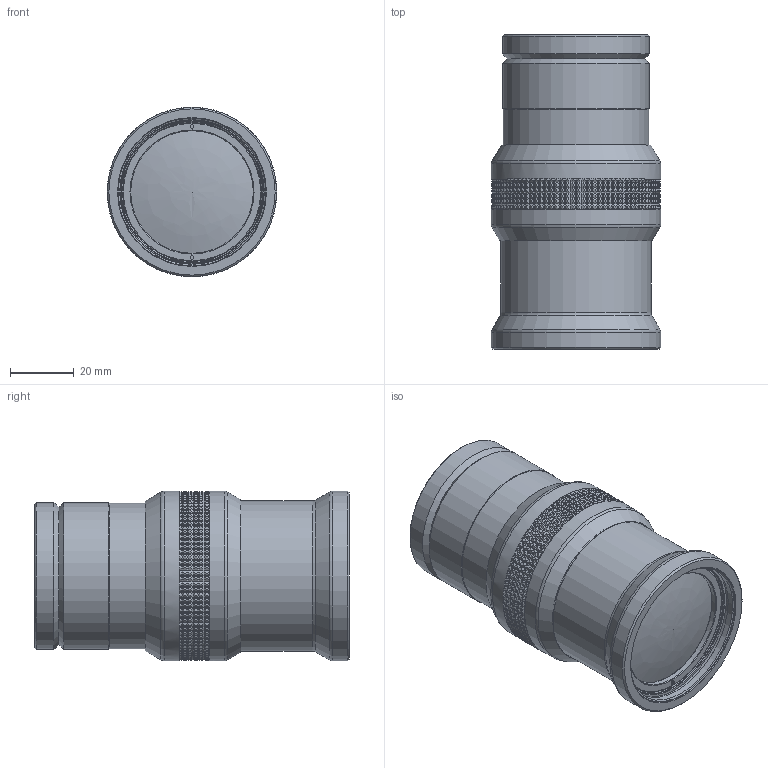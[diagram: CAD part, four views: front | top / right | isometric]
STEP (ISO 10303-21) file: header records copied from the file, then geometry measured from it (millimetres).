
FILE_DESCRIPTION(/* description */ (''),/* implementation_level */ '2;1');
FILE_NAME(/* name */ '0703-102-000-20.stp',/* time_stamp */ '2016-06-20T11:21:46+02:00',/* author */ (''),/* organization */ (''),/* preprocessor_version */ 'ST-DEVELOPER v15',/* originating_system */ 'SIEMENS PLM Software NX 8.5',/* authorisation */ '');
FILE_SCHEMA (('AUTOMOTIVE_DESIGN { 1 0 10303 214 3 1 1 1 }'));
Products named in the file (1): silk1B2C0E3720fd
Bounding box: 53.05 x 98.4 x 53.05 mm (x, y, z)
Volume: 169590.8 mm3; surface area: 22914.8 mm2
Topology: 1 solids, 1 shells, 3059 faces, 7371 edges, 4327 vertices
Faces by surface type: plane 1941, cone 1085, cylinder 27, torus 4, revolution 2
Full cylindrical faces by diameter (mm): 1.2 x2, 1.5 x2, 36 x2, 36.228 x2, 38.4 x1, 40.488 x1, 41.2 x1, 43.488 x1, 44.2 x1, 45.28 x1, 45.6 x1, 46 x2, 46.2 x3, 47 x1, 47.2 x1, 47.4 x1, 53 x3
Entity records: 110993 total; most frequent: CARTESIAN_POINT 27566, ORIENTED_EDGE 14590, DIRECTION 10032, EDGE_CURVE 7295, VERTEX_POINT 4312, B_SPLINE_CURVE_WITH_KNOTS 4230, AXIS2_PLACEMENT_3D 3905, EDGE_LOOP 3131
